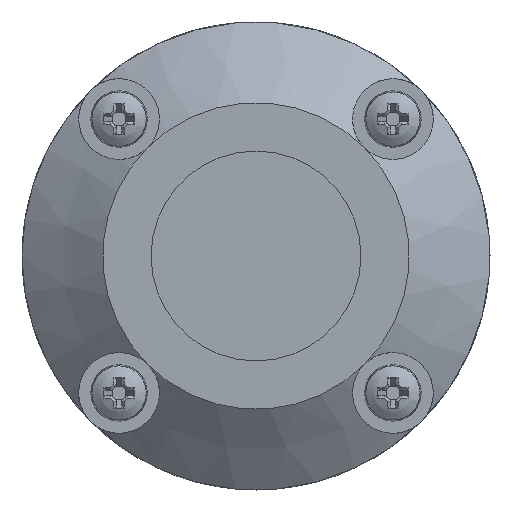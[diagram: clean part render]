
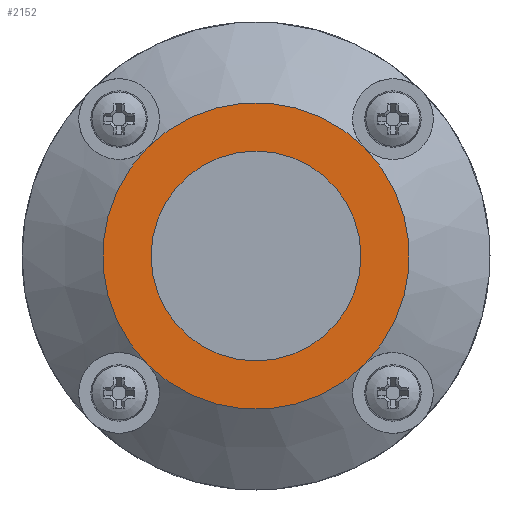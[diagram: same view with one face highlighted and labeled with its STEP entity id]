
A CAD part, left-side view. The second image highlights one B-rep face of the part: STEP entity #2152.
In plain terms, the highlighted planar face has unit normal (-1, 0, 0).
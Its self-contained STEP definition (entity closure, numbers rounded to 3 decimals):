
#269=CARTESIAN_POINT('',(0.0,13.435,-13.435));
#270=VERTEX_POINT('',#269);
#389=CARTESIAN_POINT('',(0.0,13.435,13.435));
#390=VERTEX_POINT('',#389);
#509=CARTESIAN_POINT('',(0.0,-13.435,13.435));
#510=VERTEX_POINT('',#509);
#629=CARTESIAN_POINT('',(0.0,-13.435,-13.435));
#630=VERTEX_POINT('',#629);
#741=CARTESIAN_POINT('',(0.0,0.0,0.0));
#742=DIRECTION('',(1.0,0.0,0.0));
#743=DIRECTION('',(0.0,1.0,0.0));
#744=AXIS2_PLACEMENT_3D('',#741,#742,#743);
#745=CIRCLE('',#744,19.0);
#746=EDGE_CURVE('',#510,#630,#745,.T.);
#765=CARTESIAN_POINT('',(0.0,0.0,0.0));
#766=DIRECTION('',(1.0,0.0,0.0));
#767=DIRECTION('',(0.0,1.0,0.0));
#768=AXIS2_PLACEMENT_3D('',#765,#766,#767);
#769=CIRCLE('',#768,19.0);
#770=EDGE_CURVE('',#390,#510,#769,.T.);
#789=CARTESIAN_POINT('',(0.0,0.0,0.0));
#790=DIRECTION('',(1.0,0.0,0.0));
#791=DIRECTION('',(0.0,1.0,0.0));
#792=AXIS2_PLACEMENT_3D('',#789,#790,#791);
#793=CIRCLE('',#792,19.0);
#794=EDGE_CURVE('',#270,#390,#793,.T.);
#821=CARTESIAN_POINT('',(0.0,0.0,0.0));
#822=DIRECTION('',(1.0,0.0,0.0));
#823=DIRECTION('',(0.0,1.0,0.0));
#824=AXIS2_PLACEMENT_3D('',#821,#822,#823);
#825=CIRCLE('',#824,19.0);
#826=EDGE_CURVE('',#630,#270,#825,.T.);
#1608=CARTESIAN_POINT('',(0.0,0.,13.0));
#1609=VERTEX_POINT('',#1608);
#1610=CARTESIAN_POINT('',(0.0,0.0,0.0));
#1611=DIRECTION('',(1.0,0.0,0.0));
#1612=DIRECTION('',(0.0,0.0,-1.0));
#1613=AXIS2_PLACEMENT_3D('',#1610,#1611,#1612);
#1614=CIRCLE('',#1613,13.0);
#1615=EDGE_CURVE('',#1609,#1609,#1614,.T.);
#2138=CARTESIAN_POINT('',(0.0,9.5,0.0));
#2139=DIRECTION('',(-1.0,0.0,0.0));
#2140=DIRECTION('',(0.0,0.0,1.0));
#2141=AXIS2_PLACEMENT_3D('',#2138,#2139,#2140);
#2142=PLANE('',#2141);
#2143=ORIENTED_EDGE('',*,*,#794,.F.);
#2144=ORIENTED_EDGE('',*,*,#826,.F.);
#2145=ORIENTED_EDGE('',*,*,#746,.F.);
#2146=ORIENTED_EDGE('',*,*,#770,.F.);
#2147=EDGE_LOOP('',(#2143,#2144,#2145,#2146));
#2148=FACE_OUTER_BOUND('',#2147,.T.);
#2149=ORIENTED_EDGE('',*,*,#1615,.T.);
#2150=EDGE_LOOP('',(#2149));
#2151=FACE_BOUND('',#2150,.T.);
#2152=ADVANCED_FACE('',(#2148,#2151),#2142,.T.);
